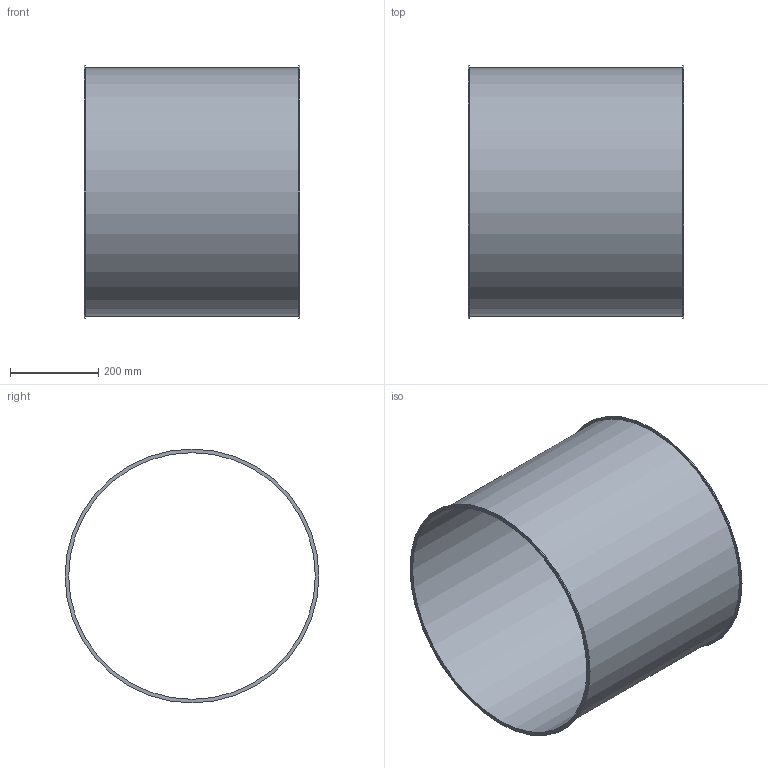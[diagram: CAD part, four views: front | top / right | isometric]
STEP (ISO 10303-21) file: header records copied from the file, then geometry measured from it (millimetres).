
FILE_DESCRIPTION((''),'2;1');
FILE_NAME('U:\Wolfgang\Marcel-3D\fertig\Kapitel 1\5621003.stp','2010-05-31T12:35:55',('TK2'),(''),'Autodesk Inventor 2010','Autodesk Inventor 2010','');
FILE_SCHEMA(('AUTOMOTIVE_DESIGN { 1 0 10303 214 1 1 1 1 }'));
Length unit declared in the file: millimetre
Products named in the file (1): 5621003
Bounding box: 488 x 574 x 574 mm (x, y, z)
Volume: 1759895.1 mm3; surface area: 1767083 mm2
Topology: 1 solids, 1 shells, 8 faces, 12 edges, 8 vertices
Faces by surface type: cylinder 4, plane 4
Full cylindrical faces by diameter (mm): 558 x1, 562 x1, 574 x2
Entity records: 194 total; most frequent: DIRECTION 34, CARTESIAN_POINT 25, AXIS2_PLACEMENT_3D 17, ORIENTED_EDGE 16, EDGE_LOOP 16, VERTEX_POINT 8, CIRCLE 8, EDGE_CURVE 8
